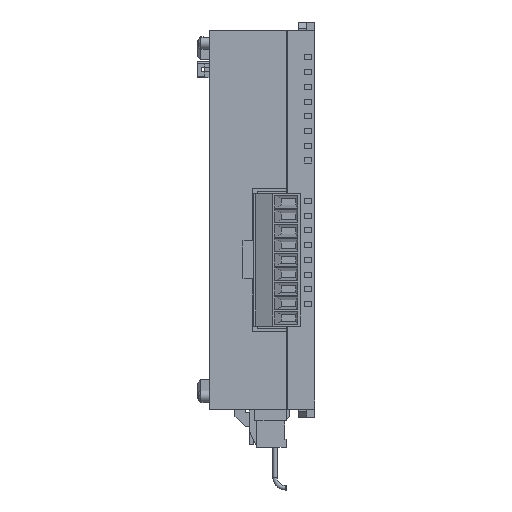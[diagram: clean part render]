
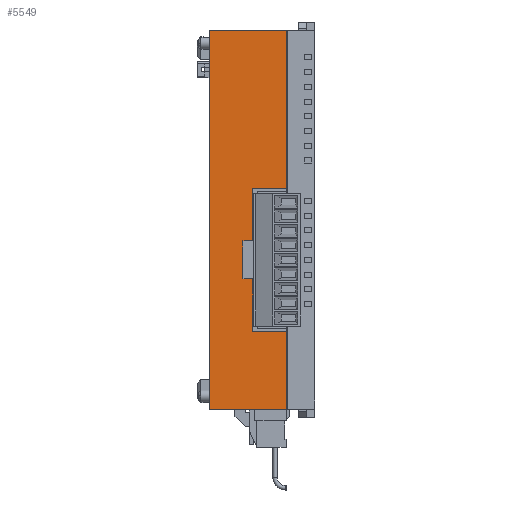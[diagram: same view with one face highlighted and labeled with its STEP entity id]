
A CAD part, top view. The second image highlights one B-rep face of the part: STEP entity #5549.
In plain terms, the highlighted planar face has unit normal (0, 0, 1).
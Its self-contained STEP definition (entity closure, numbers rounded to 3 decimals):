
#3552 = VERTEX_POINT ( 'NONE', #13188 ) ;
#3554 = VERTEX_POINT ( 'NONE', #13205 ) ;
#3560 = EDGE_CURVE ( 'NONE', #3552, #3554, #13193, .T. ) ;
#3638 = VERTEX_POINT ( 'NONE', #13383 ) ;
#3653 = VERTEX_POINT ( 'NONE', #13425 ) ;
#3716 = EDGE_CURVE ( 'NONE', #3638, #3653, #13507, .T. ) ;
#4580 = EDGE_CURVE ( 'NONE', #3653, #3554, #15072, .T. ) ;
#5172 = VERTEX_POINT ( 'NONE', #16034 ) ;
#5255 = EDGE_CURVE ( 'NONE', #5172, #3638, #16161, .T. ) ;
#5536 = EDGE_CURVE ( 'NONE', #5623, #5621, #16643, .T. ) ;
#5541 = EDGE_LOOP ( 'NONE', ( #5551, #5550, #5618, #5553, #5624, #5627, #5620, #5622, #5626, #5608, #5605, #5606 ) ) ;
#5544 = VERTEX_POINT ( 'NONE', #16638 ) ;
#5545 = EDGE_CURVE ( 'NONE', #5547, #3552, #16635, .T. ) ;
#5547 = VERTEX_POINT ( 'NONE', #16627 ) ;
#5548 = VERTEX_POINT ( 'NONE', #16622 ) ;
#5549 = ADVANCED_FACE ( 'NONE', ( #16683 ), #16628, .T. ) ;
#5550 = ORIENTED_EDGE ( 'NONE', *, *, #5552, .F. ) ;
#5551 = ORIENTED_EDGE ( 'NONE', *, *, #5545, .F. ) ;
#5552 = EDGE_CURVE ( 'NONE', #5555, #5547, #16678, .T. ) ;
#5553 = ORIENTED_EDGE ( 'NONE', *, *, #5619, .F. ) ;
#5554 = EDGE_CURVE ( 'NONE', #5615, #5555, #16624, .T. ) ;
#5555 = VERTEX_POINT ( 'NONE', #16674 ) ;
#5604 = EDGE_CURVE ( 'NONE', #5172, #5623, #16743, .T. ) ;
#5605 = ORIENTED_EDGE ( 'NONE', *, *, #4580, .T. ) ;
#5606 = ORIENTED_EDGE ( 'NONE', *, *, #3560, .F. ) ;
#5608 = ORIENTED_EDGE ( 'NONE', *, *, #3716, .T. ) ;
#5615 = VERTEX_POINT ( 'NONE', #16782 ) ;
#5617 = EDGE_CURVE ( 'NONE', #5544, #5548, #16776, .T. ) ;
#5618 = ORIENTED_EDGE ( 'NONE', *, *, #5554, .F. ) ;
#5619 = EDGE_CURVE ( 'NONE', #5548, #5615, #16777, .T. ) ;
#5620 = ORIENTED_EDGE ( 'NONE', *, *, #5536, .F. ) ;
#5621 = VERTEX_POINT ( 'NONE', #16766 ) ;
#5622 = ORIENTED_EDGE ( 'NONE', *, *, #5604, .F. ) ;
#5623 = VERTEX_POINT ( 'NONE', #16778 ) ;
#5624 = ORIENTED_EDGE ( 'NONE', *, *, #5617, .F. ) ;
#5625 = EDGE_CURVE ( 'NONE', #5621, #5544, #16719, .T. ) ;
#5626 = ORIENTED_EDGE ( 'NONE', *, *, #5255, .T. ) ;
#5627 = ORIENTED_EDGE ( 'NONE', *, *, #5625, .F. ) ;
#13188 = CARTESIAN_POINT ( 'NONE',  ( 5.8, -26.6, 60. ) ) ;
#13193 = LINE ( 'NONE', #13208, #13207 ) ;
#13205 = CARTESIAN_POINT ( 'NONE',  ( 5.8, -45., 60. ) ) ;
#13206 = DIRECTION ( 'NONE',  ( 0., -1., 0. ) ) ;
#13207 = VECTOR ( 'NONE', #13206, 1000. ) ;
#13208 = CARTESIAN_POINT ( 'NONE',  ( 5.8, 45., 60. ) ) ;
#13383 = CARTESIAN_POINT ( 'NONE',  ( -12.5, 45., 60. ) ) ;
#13425 = CARTESIAN_POINT ( 'NONE',  ( -12.5, -45., 60. ) ) ;
#13502 = DIRECTION ( 'NONE',  ( 0., -1., 0. ) ) ;
#13503 = VECTOR ( 'NONE', #13502, 1000. ) ;
#13506 = CARTESIAN_POINT ( 'NONE',  ( -12.5, 45., 60. ) ) ;
#13507 = LINE ( 'NONE', #13506, #13503 ) ;
#15069 = DIRECTION ( 'NONE',  ( 1., 0., 0. ) ) ;
#15070 = VECTOR ( 'NONE', #15069, 1000. ) ;
#15071 = CARTESIAN_POINT ( 'NONE',  ( -12.5, -45., 60. ) ) ;
#15072 = LINE ( 'NONE', #15071, #15070 ) ;
#16034 = CARTESIAN_POINT ( 'NONE',  ( 5.8, 45., 60. ) ) ;
#16160 = CARTESIAN_POINT ( 'NONE',  ( -12.5, 45., 60. ) ) ;
#16161 = LINE ( 'NONE', #16160, #16197 ) ;
#16196 = DIRECTION ( 'NONE',  ( -1., 0., 0. ) ) ;
#16197 = VECTOR ( 'NONE', #16196, 1000. ) ;
#16622 = CARTESIAN_POINT ( 'NONE',  ( -4.6, -5.05, 60. ) ) ;
#16623 = CARTESIAN_POINT ( 'NONE',  ( -4.6, -14.05, 60. ) ) ;
#16624 = LINE ( 'NONE', #16623, #16672 ) ;
#16625 = DIRECTION ( 'NONE',  ( 1., 0., 0. ) ) ;
#16626 = VECTOR ( 'NONE', #16625, 1000. ) ;
#16627 = CARTESIAN_POINT ( 'NONE',  ( -2.28, -26.6, 60. ) ) ;
#16628 = PLANE ( 'NONE',  #16684 ) ;
#16634 = CARTESIAN_POINT ( 'NONE',  ( -2.28, -26.6, 60. ) ) ;
#16635 = LINE ( 'NONE', #16634, #16626 ) ;
#16638 = CARTESIAN_POINT ( 'NONE',  ( -2.28, -5.05, 60. ) ) ;
#16640 = DIRECTION ( 'NONE',  ( -1., 0., 0. ) ) ;
#16641 = VECTOR ( 'NONE', #16640, 1000. ) ;
#16642 = CARTESIAN_POINT ( 'NONE',  ( 5.8, 7.5, 60. ) ) ;
#16643 = LINE ( 'NONE', #16642, #16641 ) ;
#16647 = CARTESIAN_POINT ( 'NONE',  ( -12.5, -45., 60. ) ) ;
#16671 = DIRECTION ( 'NONE',  ( 1., 0., 0. ) ) ;
#16672 = VECTOR ( 'NONE', #16671, 1000. ) ;
#16674 = CARTESIAN_POINT ( 'NONE',  ( -2.28, -14.05, 60. ) ) ;
#16675 = DIRECTION ( 'NONE',  ( 0., -1., 0. ) ) ;
#16676 = VECTOR ( 'NONE', #16675, 1000. ) ;
#16677 = CARTESIAN_POINT ( 'NONE',  ( -2.28, -14.05, 60. ) ) ;
#16678 = LINE ( 'NONE', #16677, #16676 ) ;
#16681 = DIRECTION ( 'NONE',  ( 1., 0., 0. ) ) ;
#16682 = DIRECTION ( 'NONE',  ( 0., 0., 1. ) ) ;
#16683 = FACE_OUTER_BOUND ( 'NONE', #5541, .T. ) ;
#16684 = AXIS2_PLACEMENT_3D ( 'NONE', #16647, #16682, #16681 ) ;
#16719 = LINE ( 'NONE', #16772, #16771 ) ;
#16724 = DIRECTION ( 'NONE',  ( 0., -1., 0. ) ) ;
#16725 = VECTOR ( 'NONE', #16724, 1000. ) ;
#16726 = CARTESIAN_POINT ( 'NONE',  ( 5.8, 45., 60. ) ) ;
#16743 = LINE ( 'NONE', #16726, #16725 ) ;
#16766 = CARTESIAN_POINT ( 'NONE',  ( -2.28, 7.5, 60. ) ) ;
#16767 = DIRECTION ( 'NONE',  ( 0., -1., 0. ) ) ;
#16768 = VECTOR ( 'NONE', #16767, 1000. ) ;
#16769 = CARTESIAN_POINT ( 'NONE',  ( -4.6, -5.05, 60. ) ) ;
#16770 = DIRECTION ( 'NONE',  ( 0., -1., 0. ) ) ;
#16771 = VECTOR ( 'NONE', #16770, 1000. ) ;
#16772 = CARTESIAN_POINT ( 'NONE',  ( -2.28, 7.5, 60. ) ) ;
#16773 = DIRECTION ( 'NONE',  ( -1., 0., 0. ) ) ;
#16774 = VECTOR ( 'NONE', #16773, 1000. ) ;
#16775 = CARTESIAN_POINT ( 'NONE',  ( -2.28, -5.05, 60. ) ) ;
#16776 = LINE ( 'NONE', #16775, #16774 ) ;
#16777 = LINE ( 'NONE', #16769, #16768 ) ;
#16778 = CARTESIAN_POINT ( 'NONE',  ( 5.8, 7.5, 60. ) ) ;
#16782 = CARTESIAN_POINT ( 'NONE',  ( -4.6, -14.05, 60. ) ) ;
